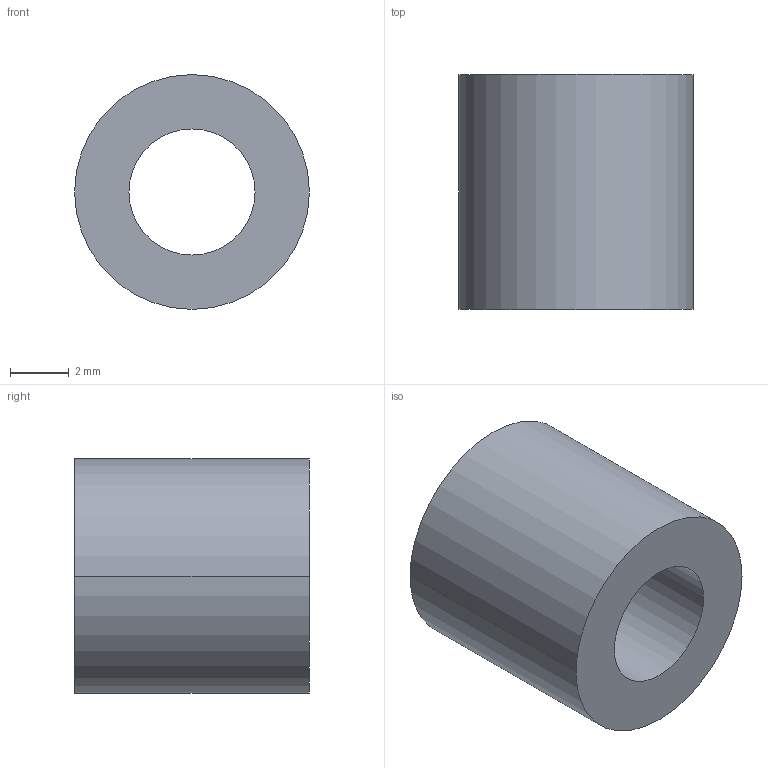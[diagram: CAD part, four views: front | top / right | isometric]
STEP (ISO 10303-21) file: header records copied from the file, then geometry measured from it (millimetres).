
FILE_DESCRIPTION (( 'STEP AP203' ), '1' );
FILE_NAME ('30800.WPP8B4.3.step', '2019-01-23T22:20:46', ( '' ), ( '' ), 'SwSTEP 2.0', 'SolidWorks 2017', '' );
FILE_SCHEMA (( 'CONFIG_CONTROL_DESIGN' ));
Length unit declared in the file: millimetre
Products named in the file (1): 30800.WPP8B4.3
Bounding box: 8 x 8 x 8 mm (x, y, z)
Volume: 282.7 mm3; surface area: 375.3 mm2
Topology: 1 solids, 1 shells, 8 faces, 16 edges, 10 vertices
Faces by surface type: cylinder 4, torus 2, plane 2
Entity records: 297 total; most frequent: DIRECTION 46, CARTESIAN_POINT 35, ORIENTED_EDGE 32, AXIS2_PLACEMENT_3D 21, EDGE_CURVE 16, CIRCLE 12, EDGE_LOOP 10, VERTEX_POINT 10
